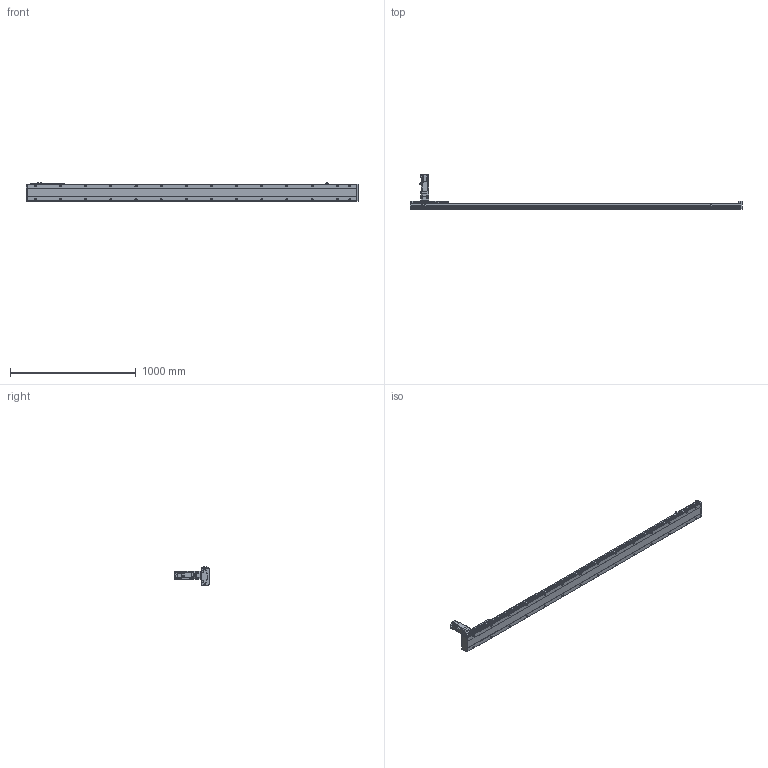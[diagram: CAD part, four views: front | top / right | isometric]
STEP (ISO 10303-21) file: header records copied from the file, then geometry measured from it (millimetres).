
FILE_DESCRIPTION(/* description */ ('STEP AP203'),/* implementation_level */ '2;1');
FILE_NAME(/* name */ 'SHS14A-L10-S2300-BC-T40-C1-N(0)',/* time_stamp */ '2023-03-27T08:50:25+02:00',/* author */ ('License CC BY-ND 4.0'),/* organization */ ('CADENAS'),/* preprocessor_version */ 'ST-DEVELOPER v19.3',/* originating_system */ 'PARTsolutions',/* authorisation */ ' ');
FILE_SCHEMA (('CONFIG_CONTROL_DESIGN'));
Length unit declared in the file: millimetre
Products named in the file (7): SHS14A-L10-S2300-BC-T40-C1-N(0); PSC140-sensor; T40-p1; SHS14AT_body3; SHS14A-2300_slider; SHS14A_body2; SHS14A-S2300-BC-T40-C1(0)_body
Assembly tree (13 placements, depth 2):
  SHS14A-L10-S2300-BC-T40-C1-N(0)
    PSC140-sensor  x3
    T40-p1
    SHS14AT_body3
    SHS14A-2300_slider
    SHS14A_body2  x6
    SHS14A-S2300-BC-T40-C1(0)_body
Bounding box: 2640 x 272.7 x 150.9 mm (x, y, z)
Volume: 11063375.9 mm3; surface area: 1729213.6 mm2
Topology: 13 solids, 13 shells, 2124 faces, 5423 edges, 3546 vertices
Faces by surface type: plane 1479, cylinder 555, cone 80, torus 10
Full cylindrical faces by diameter (mm): 2.8 x3, 4.134 x24, 4.2 x7, 4.4 x24, 4.5 x24, 4.6 x3, 4.8 x24, 4.917 x36, 5 x8, 5.5 x11, 5.94 x6, 6 x2, 6.6 x28, 8 x24, 8.49 x4, 8.5 x4, 9 x4, 10.5 x28, 13.964 x1, 14 x1, 14.182 x1, 16 x1, 18.974 x1, 19.274 x1, 19.774 x1, 19.8 x1, 34.442 x1, 42 x1, 50 x5
Entity records: 34238 total; most frequent: CARTESIAN_POINT 6102, DIRECTION 5787, ORIENTED_EDGE 5322, EDGE_CURVE 2661, AXIS2_PLACEMENT_3D 2017, VERTEX_POINT 1900, LINE 1753, VECTOR 1753
